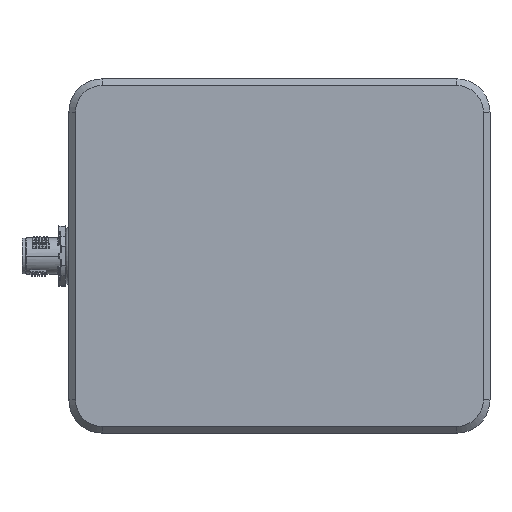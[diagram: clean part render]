
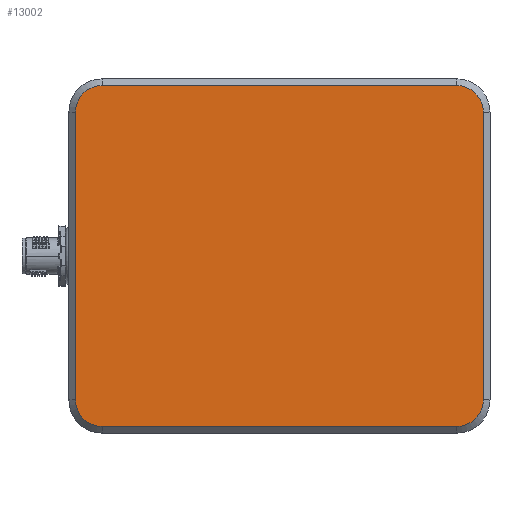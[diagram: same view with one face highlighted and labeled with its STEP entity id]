
A CAD part, front view. The second image highlights one B-rep face of the part: STEP entity #13002.
In plain terms, the highlighted planar face has unit normal (0, -1, 0).
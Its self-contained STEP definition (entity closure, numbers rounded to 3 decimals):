
#925 = CARTESIAN_POINT ( 'NONE',  ( 48.364, -14.091, -51. ) ) ;
#1010 = EDGE_CURVE ( 'NONE', #6602, #20885, #8718, .T. ) ;
#1478 = VERTEX_POINT ( 'NONE', #18298 ) ;
#1716 = CARTESIAN_POINT ( 'NONE',  ( -57.636, -14.091, 51. ) ) ;
#2124 = AXIS2_PLACEMENT_3D ( 'NONE', #21166, #10165, #23053 ) ;
#2669 = CARTESIAN_POINT ( 'NONE',  ( -57.636, -14.091, 43. ) ) ;
#2741 = DIRECTION ( 'NONE',  ( 1., 0., 0. ) ) ;
#2991 = CIRCLE ( 'NONE', #10287, 8. ) ;
#3399 = ORIENTED_EDGE ( 'NONE', *, *, #17391, .T. ) ;
#4001 = LINE ( 'NONE', #20708, #13137 ) ;
#4077 = ORIENTED_EDGE ( 'NONE', *, *, #8330, .T. ) ;
#4251 = CARTESIAN_POINT ( 'NONE',  ( 58.364, -14.091, -53. ) ) ;
#4547 = DIRECTION ( 'NONE',  ( 0., 0., -1. ) ) ;
#5196 = CIRCLE ( 'NONE', #2124, 8. ) ;
#6081 = DIRECTION ( 'NONE',  ( 0., 0., -1. ) ) ;
#6602 = VERTEX_POINT ( 'NONE', #13916 ) ;
#6778 = LINE ( 'NONE', #925, #11615 ) ;
#6828 = VERTEX_POINT ( 'NONE', #15632 ) ;
#6834 = CARTESIAN_POINT ( 'NONE',  ( -57.636, -14.091, -43. ) ) ;
#7324 = EDGE_CURVE ( 'NONE', #1478, #20417, #5196, .T. ) ;
#7481 = VERTEX_POINT ( 'NONE', #12520 ) ;
#7849 = VERTEX_POINT ( 'NONE', #17587 ) ;
#8330 = EDGE_CURVE ( 'NONE', #20417, #6602, #4001, .T. ) ;
#8683 = DIRECTION ( 'NONE',  ( 0., 0., -1. ) ) ;
#8718 = CIRCLE ( 'NONE', #20893, 8. ) ;
#9406 = EDGE_CURVE ( 'NONE', #7849, #20318, #2991, .T. ) ;
#9641 = EDGE_LOOP ( 'NONE', ( #16382, #12977, #4077, #12089, #3399, #20360, #22352, #19882 ) ) ;
#9975 = DIRECTION ( 'NONE',  ( 0., 0., -1. ) ) ;
#10165 = DIRECTION ( 'NONE',  ( 0., -1., 0. ) ) ;
#10287 = AXIS2_PLACEMENT_3D ( 'NONE', #6834, #19670, #8683 ) ;
#10348 = EDGE_CURVE ( 'NONE', #7481, #6828, #10943, .T. ) ;
#10943 = CIRCLE ( 'NONE', #11509, 8. ) ;
#11509 = AXIS2_PLACEMENT_3D ( 'NONE', #2669, #15539, #4547 ) ;
#11615 = VECTOR ( 'NONE', #2741, 1000. ) ;
#12089 = ORIENTED_EDGE ( 'NONE', *, *, #1010, .T. ) ;
#12520 = CARTESIAN_POINT ( 'NONE',  ( -57.636, -14.091, 51. ) ) ;
#12812 = VECTOR ( 'NONE', #18245, 1000. ) ;
#12977 = ORIENTED_EDGE ( 'NONE', *, *, #7324, .T. ) ;
#13002 = ADVANCED_FACE ( 'NONE', ( #18992 ), #22198, .T. ) ;
#13137 = VECTOR ( 'NONE', #22573, 1000. ) ;
#13916 = CARTESIAN_POINT ( 'NONE',  ( 56.364, -14.091, 43. ) ) ;
#15093 = EDGE_CURVE ( 'NONE', #20318, #1478, #6778, .T. ) ;
#15205 = VECTOR ( 'NONE', #22578, 1000. ) ;
#15539 = DIRECTION ( 'NONE',  ( 0., -1., 0. ) ) ;
#15632 = CARTESIAN_POINT ( 'NONE',  ( -65.636, -14.091, 43. ) ) ;
#16382 = ORIENTED_EDGE ( 'NONE', *, *, #15093, .T. ) ;
#16611 = EDGE_CURVE ( 'NONE', #6828, #7849, #20674, .T. ) ;
#17052 = DIRECTION ( 'NONE',  ( 0., -1., 0. ) ) ;
#17284 = AXIS2_PLACEMENT_3D ( 'NONE', #4251, #17052, #6081 ) ;
#17391 = EDGE_CURVE ( 'NONE', #20885, #7481, #17718, .T. ) ;
#17587 = CARTESIAN_POINT ( 'NONE',  ( -65.636, -14.091, -43. ) ) ;
#17718 = LINE ( 'NONE', #1716, #12812 ) ;
#18245 = DIRECTION ( 'NONE',  ( -1., 0., 0. ) ) ;
#18298 = CARTESIAN_POINT ( 'NONE',  ( 48.364, -14.091, -51. ) ) ;
#18907 = CARTESIAN_POINT ( 'NONE',  ( 48.364, -14.091, 51. ) ) ;
#18937 = CARTESIAN_POINT ( 'NONE',  ( -57.636, -14.091, -51. ) ) ;
#18992 = FACE_OUTER_BOUND ( 'NONE', #9641, .T. ) ;
#19344 = CARTESIAN_POINT ( 'NONE',  ( 56.364, -14.091, -43. ) ) ;
#19670 = DIRECTION ( 'NONE',  ( 0., -1., 0. ) ) ;
#19882 = ORIENTED_EDGE ( 'NONE', *, *, #9406, .T. ) ;
#20318 = VERTEX_POINT ( 'NONE', #18937 ) ;
#20360 = ORIENTED_EDGE ( 'NONE', *, *, #10348, .T. ) ;
#20417 = VERTEX_POINT ( 'NONE', #19344 ) ;
#20576 = DIRECTION ( 'NONE',  ( 0., -1., 0. ) ) ;
#20674 = LINE ( 'NONE', #20712, #15205 ) ;
#20708 = CARTESIAN_POINT ( 'NONE',  ( 56.364, -14.091, 43. ) ) ;
#20712 = CARTESIAN_POINT ( 'NONE',  ( -65.636, -14.091, -43. ) ) ;
#20885 = VERTEX_POINT ( 'NONE', #18907 ) ;
#20893 = AXIS2_PLACEMENT_3D ( 'NONE', #23337, #20576, #9975 ) ;
#21166 = CARTESIAN_POINT ( 'NONE',  ( 48.364, -14.091, -43. ) ) ;
#22198 = PLANE ( 'NONE',  #17284 ) ;
#22352 = ORIENTED_EDGE ( 'NONE', *, *, #16611, .T. ) ;
#22573 = DIRECTION ( 'NONE',  ( 0., 0., 1. ) ) ;
#22578 = DIRECTION ( 'NONE',  ( 0., 0., -1. ) ) ;
#23053 = DIRECTION ( 'NONE',  ( 0., 0., -1. ) ) ;
#23337 = CARTESIAN_POINT ( 'NONE',  ( 48.364, -14.091, 43. ) ) ;
